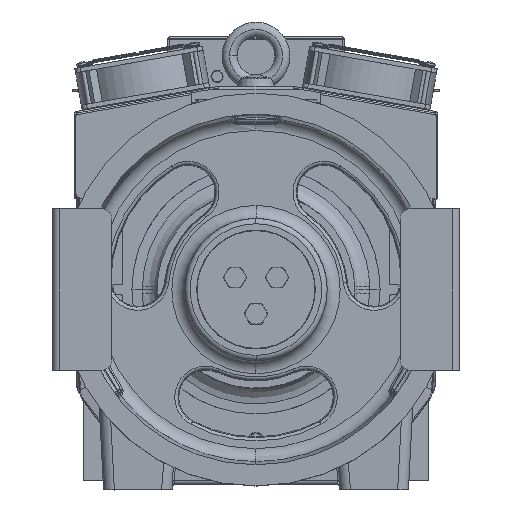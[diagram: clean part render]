
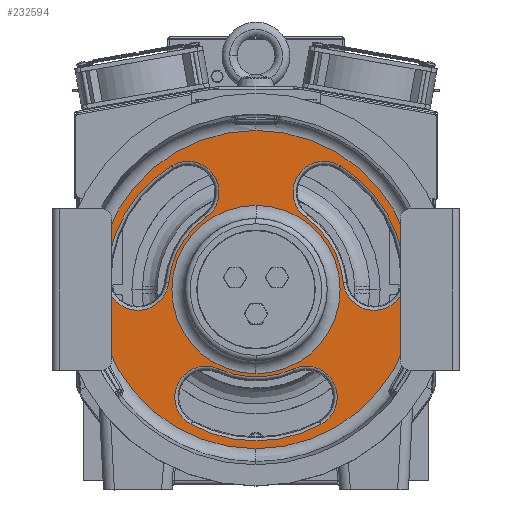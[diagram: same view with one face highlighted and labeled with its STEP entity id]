
A CAD part, top view. The second image highlights one B-rep face of the part: STEP entity #232594.
In plain terms, the highlighted planar face has unit normal (0, 0, 1) as drawn and (0, 0, -1) by its records, which use the part's own axes.
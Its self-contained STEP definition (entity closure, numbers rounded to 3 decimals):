
#228048=CARTESIAN_POINT('',(0.,0.,-10.));
#228049=DIRECTION('',(0.,0.,1.));
#228050=DIRECTION('',(0.,-1.,0.));
#228051=AXIS2_PLACEMENT_3D('',#228048,#228049,#228050);
#228053=CARTESIAN_POINT('',(0.,0.,-10.));
#228054=DIRECTION('',(0.,0.,1.));
#228055=DIRECTION('',(0.,1.,0.));
#228056=AXIS2_PLACEMENT_3D('',#228053,#228054,#228055);
#228058=CARTESIAN_POINT('',(0.,0.,-10.));
#228059=DIRECTION('',(0.,0.,-1.));
#228060=DIRECTION('',(0.,-1.,0.));
#228061=AXIS2_PLACEMENT_3D('',#228058,#228059,#228060);
#228063=CARTESIAN_POINT('',(0.,0.,-10.));
#228064=DIRECTION('',(0.,0.,-1.));
#228065=DIRECTION('',(0.,1.,0.));
#228066=AXIS2_PLACEMENT_3D('',#228063,#228064,#228065);
#228068=CARTESIAN_POINT('',(-46.488,-99.694,-10.));
#228069=DIRECTION('',(0.,0.,-1.));
#228070=DIRECTION('',(-0.477,-0.879,0.));
#228071=AXIS2_PLACEMENT_3D('',#228068,#228069,#228070);
#228073=CARTESIAN_POINT('',(0.,2.752,-10.));
#228074=DIRECTION('',(0.,0.,1.));
#228075=DIRECTION('',(-0.413,-0.911,0.));
#228076=AXIS2_PLACEMENT_3D('',#228073,#228074,#228075);
#228078=CARTESIAN_POINT('',(46.488,-99.694,-10.));
#228079=DIRECTION('',(0.,0.,-1.));
#228080=DIRECTION('',(-0.413,0.911,0.));
#228081=AXIS2_PLACEMENT_3D('',#228078,#228079,#228080);
#228083=CARTESIAN_POINT('',(0.,-13.99,-10.));
#228084=DIRECTION('',(0.,0.,-1.));
#228085=DIRECTION('',(0.477,-0.879,0.));
#228086=AXIS2_PLACEMENT_3D('',#228083,#228084,#228085);
#228088=CARTESIAN_POINT('',(109.581,9.587,-10.));
#228089=DIRECTION('',(0.,0.,-1.));
#228090=DIRECTION('',(1.,0.027,0.));
#228091=AXIS2_PLACEMENT_3D('',#228088,#228089,#228090);
#228093=CARTESIAN_POINT('',(-2.383,-1.376,-10.));
#228094=DIRECTION('',(0.,0.,1.));
#228095=DIRECTION('',(0.995,0.097,0.));
#228096=AXIS2_PLACEMENT_3D('',#228093,#228094,#228095);
#228098=CARTESIAN_POINT('',(63.093,90.107,-10.));
#228099=DIRECTION('',(0.,0.,-1.));
#228100=DIRECTION('',(-0.582,-0.813,0.));
#228101=AXIS2_PLACEMENT_3D('',#228098,#228099,#228100);
#228103=CARTESIAN_POINT('',(12.116,6.995,-10.));
#228104=DIRECTION('',(0.,0.,-1.));
#228105=DIRECTION('',(0.523,0.852,0.));
#228106=AXIS2_PLACEMENT_3D('',#228103,#228104,#228105);
#228108=CARTESIAN_POINT('',(-63.093,90.107,-10.));
#228109=DIRECTION('',(0.,0.,-1.));
#228110=DIRECTION('',(-0.523,0.852,0.));
#228111=AXIS2_PLACEMENT_3D('',#228108,#228109,#228110);
#228113=CARTESIAN_POINT('',(2.383,-1.376,-10.));
#228114=DIRECTION('',(0.,0.,1.));
#228115=DIRECTION('',(-0.582,0.813,0.));
#228116=AXIS2_PLACEMENT_3D('',#228113,#228114,#228115);
#228118=CARTESIAN_POINT('',(-109.581,9.587,-10.));
#228119=DIRECTION('',(0.,0.,-1.));
#228120=DIRECTION('',(0.995,-0.097,0.));
#228121=AXIS2_PLACEMENT_3D('',#228118,#228119,#228120);
#228123=CARTESIAN_POINT('',(-12.116,6.995,-10.));
#228124=DIRECTION('',(0.,0.,-1.));
#228125=DIRECTION('',(-1.,0.027,0.));
#228126=AXIS2_PLACEMENT_3D('',#228123,#228124,#228125);
#231859=CARTESIAN_POINT('',(0.,-77.987,-10.));
#231860=CARTESIAN_POINT('',(0.,77.987,-10.));
#231861=VERTEX_POINT('',#231859);
#231862=VERTEX_POINT('',#231860);
#231863=CARTESIAN_POINT('',(0.,-147.491,-10.));
#231864=CARTESIAN_POINT('',(0.,147.491,-10.));
#231865=VERTEX_POINT('',#231863);
#231866=VERTEX_POINT('',#231864);
#231867=CARTESIAN_POINT('',(-60.197,-124.967,-10.));
#231868=CARTESIAN_POINT('',(-34.607,-73.511,-10.));
#231869=VERTEX_POINT('',#231867);
#231870=VERTEX_POINT('',#231868);
#231871=CARTESIAN_POINT('',(34.607,-73.511,-10.));
#231872=VERTEX_POINT('',#231871);
#231873=CARTESIAN_POINT('',(60.197,-124.967,-10.));
#231874=VERTEX_POINT('',#231873);
#231875=CARTESIAN_POINT('',(138.324,10.352,-10.));
#231876=CARTESIAN_POINT('',(80.966,6.785,-10.));
#231877=VERTEX_POINT('',#231875);
#231878=VERTEX_POINT('',#231876);
#231879=CARTESIAN_POINT('',(46.359,66.726,-10.));
#231880=VERTEX_POINT('',#231879);
#231881=CARTESIAN_POINT('',(78.126,114.616,-10.));
#231882=VERTEX_POINT('',#231881);
#231883=CARTESIAN_POINT('',(-78.126,114.616,-10.));
#231884=CARTESIAN_POINT('',(-46.359,66.726,-10.));
#231885=VERTEX_POINT('',#231883);
#231886=VERTEX_POINT('',#231884);
#231887=CARTESIAN_POINT('',(-80.966,6.785,-10.));
#231888=VERTEX_POINT('',#231887);
#231889=CARTESIAN_POINT('',(-138.324,10.352,-10.));
#231890=VERTEX_POINT('',#231889);
#232548=CARTESIAN_POINT('',(0.,0.,-10.));
#232549=DIRECTION('',(0.,0.,1.));
#232550=DIRECTION('',(0.,1.,0.));
#232551=AXIS2_PLACEMENT_3D('',#232548,#232549,#232550);
#232552=PLANE('',#232551);
#232554=ORIENTED_EDGE('',*,*,#232553,.T.);
#232556=ORIENTED_EDGE('',*,*,#232555,.T.);
#232557=EDGE_LOOP('',(#232554,#232556));
#232558=FACE_OUTER_BOUND('',#232557,.F.);
#232559=ORIENTED_EDGE('',*,*,#232537,.T.);
#232561=ORIENTED_EDGE('',*,*,#232560,.T.);
#232562=EDGE_LOOP('',(#232559,#232561));
#232563=FACE_BOUND('',#232562,.F.);
#232565=ORIENTED_EDGE('',*,*,#232564,.T.);
#232567=ORIENTED_EDGE('',*,*,#232566,.T.);
#232569=ORIENTED_EDGE('',*,*,#232568,.T.);
#232571=ORIENTED_EDGE('',*,*,#232570,.T.);
#232572=EDGE_LOOP('',(#232565,#232567,#232569,#232571));
#232573=FACE_BOUND('',#232572,.F.);
#232575=ORIENTED_EDGE('',*,*,#232574,.T.);
#232577=ORIENTED_EDGE('',*,*,#232576,.T.);
#232579=ORIENTED_EDGE('',*,*,#232578,.T.);
#232581=ORIENTED_EDGE('',*,*,#232580,.T.);
#232582=EDGE_LOOP('',(#232575,#232577,#232579,#232581));
#232583=FACE_BOUND('',#232582,.F.);
#232585=ORIENTED_EDGE('',*,*,#232584,.T.);
#232587=ORIENTED_EDGE('',*,*,#232586,.T.);
#232589=ORIENTED_EDGE('',*,*,#232588,.T.);
#232591=ORIENTED_EDGE('',*,*,#232590,.T.);
#232592=EDGE_LOOP('',(#232585,#232587,#232589,#232591));
#232593=FACE_BOUND('',#232592,.F.);
#232594=ADVANCED_FACE('',(#232558,#232563,#232573,#232583,#232593),#232552,.F.);
#228052=CIRCLE('',#228051,147.491);
#228057=CIRCLE('',#228056,147.491);
#228062=CIRCLE('',#228061,77.987);
#228067=CIRCLE('',#228066,77.987);
#228072=CIRCLE('',#228071,28.752);
#228077=CIRCLE('',#228076,83.748);
#228082=CIRCLE('',#228081,28.752);
#228087=CIRCLE('',#228086,126.252);
#228092=CIRCLE('',#228091,28.752);
#228097=CIRCLE('',#228096,83.748);
#228102=CIRCLE('',#228101,28.752);
#228107=CIRCLE('',#228106,126.252);
#228112=CIRCLE('',#228111,28.752);
#228117=CIRCLE('',#228116,83.748);
#228122=CIRCLE('',#228121,28.752);
#228127=CIRCLE('',#228126,126.252);
#232537=EDGE_CURVE('',#231861,#231862,#228062,.T.);
#232553=EDGE_CURVE('',#231865,#231866,#228052,.T.);
#232555=EDGE_CURVE('',#231866,#231865,#228057,.T.);
#232560=EDGE_CURVE('',#231862,#231861,#228067,.T.);
#232564=EDGE_CURVE('',#231869,#231870,#228072,.T.);
#232566=EDGE_CURVE('',#231870,#231872,#228077,.T.);
#232568=EDGE_CURVE('',#231872,#231874,#228082,.T.);
#232570=EDGE_CURVE('',#231874,#231869,#228087,.T.);
#232574=EDGE_CURVE('',#231877,#231878,#228092,.T.);
#232576=EDGE_CURVE('',#231878,#231880,#228097,.T.);
#232578=EDGE_CURVE('',#231880,#231882,#228102,.T.);
#232580=EDGE_CURVE('',#231882,#231877,#228107,.T.);
#232584=EDGE_CURVE('',#231885,#231886,#228112,.T.);
#232586=EDGE_CURVE('',#231886,#231888,#228117,.T.);
#232588=EDGE_CURVE('',#231888,#231890,#228122,.T.);
#232590=EDGE_CURVE('',#231890,#231885,#228127,.T.);
